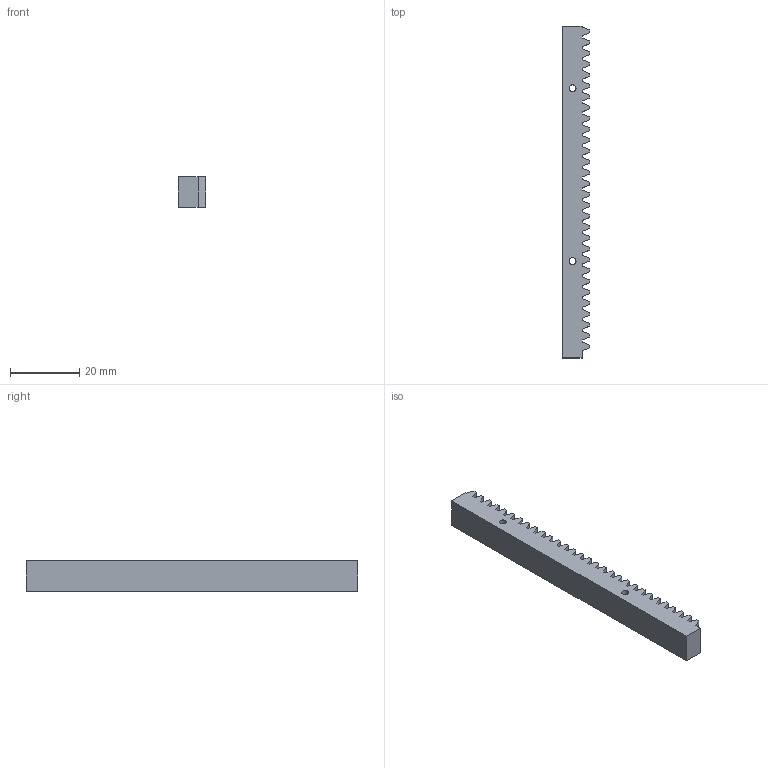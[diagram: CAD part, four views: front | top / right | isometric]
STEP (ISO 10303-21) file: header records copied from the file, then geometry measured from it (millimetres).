
FILE_DESCRIPTION(('Open CASCADE Model'),'2;1');
FILE_NAME('Open CASCADE Shape Model','2026-10-17T23:13:31',('Author'),( 'Open CASCADE'),'Open CASCADE STEP processor 7.9','Open CASCADE 7.9' ,'Unknown');
FILE_SCHEMA(('AUTOMOTIVE_DESIGN { 1 0 10303 214 1 1 1 1 }'));
Length unit declared in the file: millimetre
Products named in the file (1): Open CASCADE STEP translator 7.9 14
Bounding box: 8 x 96 x 8.7 mm (x, y, z)
Volume: 5723.6 mm3; surface area: 4017.9 mm2
Topology: 1 solids, 1 shells, 128 faces, 378 edges, 252 vertices
Faces by surface type: plane 126, cylinder 2
Full cylindrical faces by diameter (mm): 2 x2
Entity records: 9118 total; most frequent: CARTESIAN_POINT 1515, DIRECTION 1396, LINE 1126, VECTOR 1126, ORIENTED_EDGE 756, PCURVE 756, DEFINITIONAL_REPRESENTATION 756, EDGE_CURVE 378
